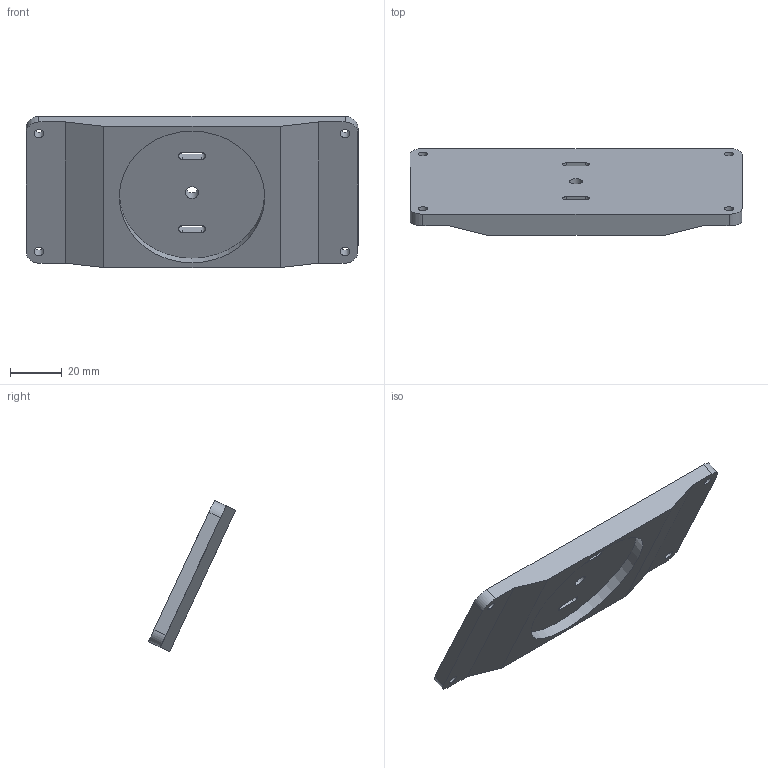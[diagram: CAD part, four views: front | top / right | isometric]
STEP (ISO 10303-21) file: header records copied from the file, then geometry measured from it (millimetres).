
FILE_DESCRIPTION(/* description */ ('STEP AP242 Edition 2','CAx-IF Rec.Pracs.---Representation and Presentation of Product Manufacturing Information (PMI)---4.0---2014-10-13','CAx-IF Rec.Pracs.---3D Tessellated Geometry---0.4---2014-09-14','2;1','CAx-IF Rec.Pracs.---User Defined Attributes---1.5---2016-08-15'),/* implementation_level */ '2;1');
FILE_NAME(/* name */ 'main - front plate',/* time_stamp */ '2026-11-08T20:03:43Z',/* author */ (''),/* organization */ (''),/* preprocessor_version */ 'ST-DEVELOPER v20',/* originating_system */ 'ONSHAPE BY PTC INC, 1.223',/* authorisation */ ' ');
FILE_SCHEMA (('AP242_MANAGED_MODEL_BASED_3D_ENGINEERING_MIM_LF { 1 0 10303 442 3 1 4 }'));
Length unit declared in the file: metre
Products named in the file (1): front plate
Bounding box: 127.85 x 33.51 x 58.18 mm (x, y, z)
Volume: 47667.2 mm3; surface area: 18872.8 mm2
Topology: 1 solids, 1 shells, 29 faces, 78 edges, 52 vertices
Faces by surface type: plane 15, cylinder 14
Full cylindrical faces by diameter (mm): 3.6 x4, 5 x1, 56 x1
Entity records: 940 total; most frequent: DIRECTION 160, CARTESIAN_POINT 154, ORIENTED_EDGE 144, EDGE_CURVE 72, AXIS2_PLACEMENT_3D 58, VERTEX_POINT 52, EDGE_LOOP 50, FACE_BOUND 50
